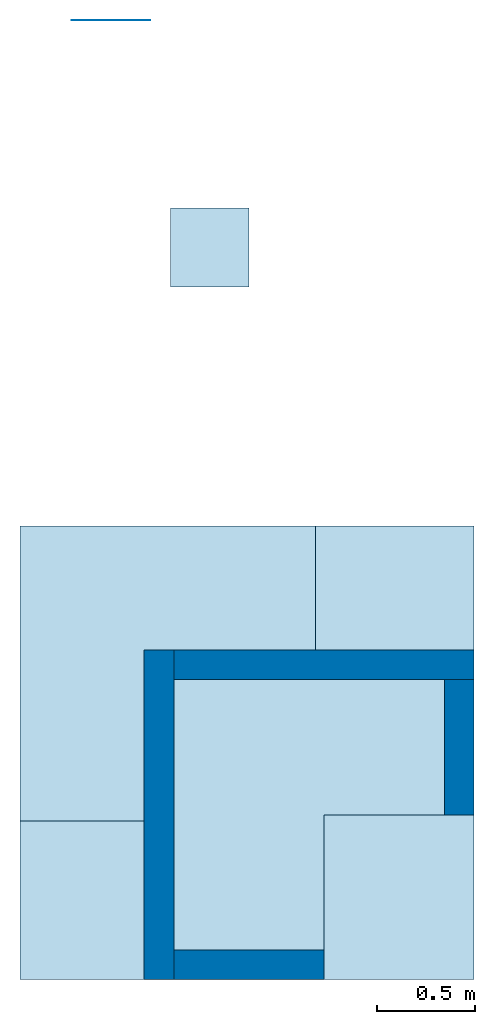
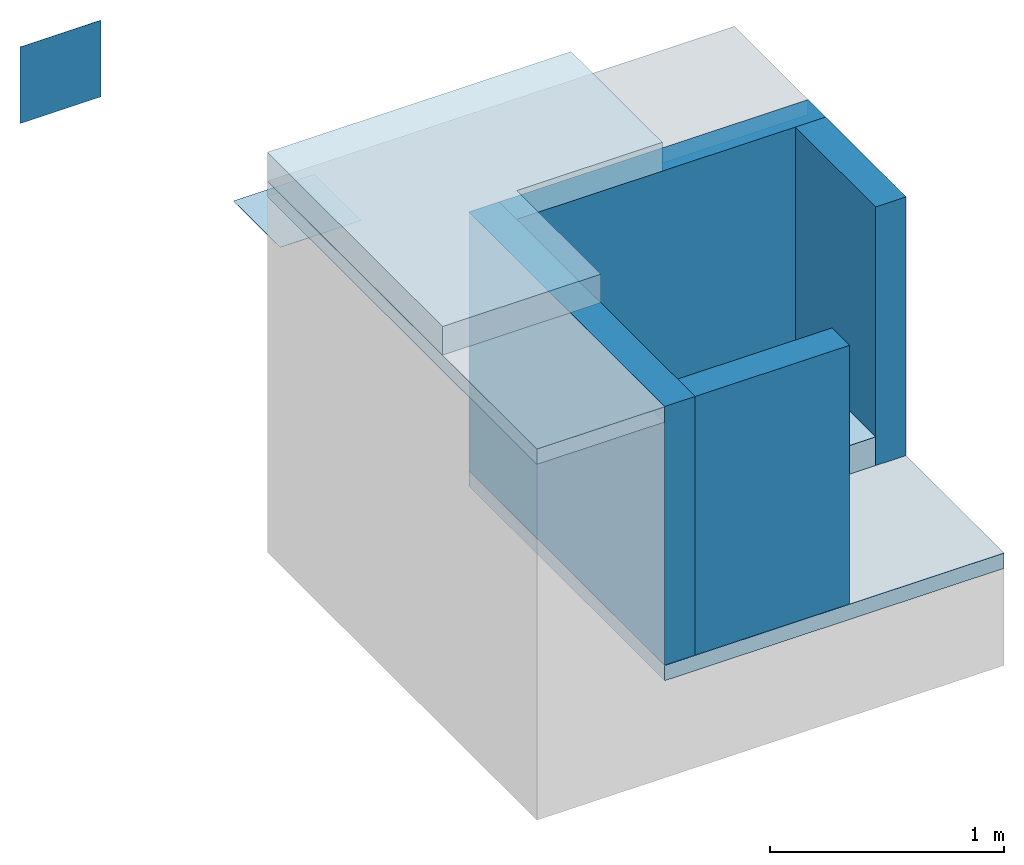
# One storey, part 1 of 2: 5 slabs, 5 walls.
"""IFC2X3 building model written with IfcOpenShell, lengths in metres."""

from ifc_helpers import new_model, entity, si_unit, converted_unit, derived_unit, direction, frame, frame_2d, origin, origin_2d_with_axis, place, context, subcontext, project, spatial, polyline, rectangle, outline, extrude, material, layer, layer_set, layer_usage, type_object, element, save


model = new_model("IFC2X3")

# Units and contexts
model_context = context("Model", 3, precision=1e-05, world=origin(), true_north=direction((6.123031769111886e-17, 1.0)))
body_context = subcontext(model_context, "Body", "Model", "MODEL_VIEW")
ifc_project = project(units=[si_unit("LENGTHUNIT", "METRE"), si_unit("AREAUNIT", "SQUARE_METRE"), si_unit("VOLUMEUNIT", "CUBIC_METRE"), converted_unit("PLANEANGLEUNIT", "DEGREE", entity("IfcRatioMeasure", 0.017453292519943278), si_unit("PLANEANGLEUNIT", "RADIAN"), dimensions=[0, 0, 0, 0, 0, 0, 0]), si_unit("MASSUNIT", "GRAM", prefix="KILO"), derived_unit("MASSDENSITYUNIT", [(si_unit("MASSUNIT", "GRAM", prefix="KILO"), 1), (si_unit("LENGTHUNIT", "METRE"), -3)]), derived_unit("IONCONCENTRATIONUNIT", [(si_unit("MASSUNIT", "GRAM", prefix="KILO"), 1), (si_unit("LENGTHUNIT", "METRE"), -3)]), derived_unit("MOMENTOFINERTIAUNIT", [(si_unit("LENGTHUNIT", "METRE"), 4)]), si_unit("TIMEUNIT", "SECOND"), si_unit("FREQUENCYUNIT", "HERTZ"), si_unit("THERMODYNAMICTEMPERATUREUNIT", "DEGREE_CELSIUS"), derived_unit("THERMALTRANSMITTANCEUNIT", [(si_unit("MASSUNIT", "GRAM", prefix="KILO"), 1), (si_unit("THERMODYNAMICTEMPERATUREUNIT", "KELVIN"), -1), (si_unit("TIMEUNIT", "SECOND"), -3)]), derived_unit("THERMALCONDUCTANCEUNIT", [(si_unit("MASSUNIT", "GRAM", prefix="KILO"), 1), (si_unit("THERMODYNAMICTEMPERATUREUNIT", "KELVIN"), -1), (si_unit("TIMEUNIT", "SECOND"), -3), (si_unit("LENGTHUNIT", "METRE"), 1)]), derived_unit("VOLUMETRICFLOWRATEUNIT", [(si_unit("LENGTHUNIT", "METRE"), 3), (si_unit("TIMEUNIT", "SECOND"), -1)]), derived_unit("MASSFLOWRATEUNIT", [(si_unit("MASSUNIT", "GRAM", prefix="KILO"), 1), (si_unit("TIMEUNIT", "SECOND"), -1)]), derived_unit("ROTATIONALFREQUENCYUNIT", [(si_unit("TIMEUNIT", "SECOND"), -1)]), si_unit("ELECTRICCURRENTUNIT", "AMPERE"), si_unit("ELECTRICVOLTAGEUNIT", "VOLT"), si_unit("POWERUNIT", "WATT"), si_unit("FORCEUNIT", "NEWTON", prefix="KILO"), si_unit("ILLUMINANCEUNIT", "LUX"), si_unit("LUMINOUSFLUXUNIT", "LUMEN"), si_unit("LUMINOUSINTENSITYUNIT", "CANDELA"), derived_unit("USERDEFINED", [(si_unit("MASSUNIT", "GRAM", prefix="KILO"), -1), (si_unit("LENGTHUNIT", "METRE"), -2), (si_unit("TIMEUNIT", "SECOND"), 3), (si_unit("LUMINOUSFLUXUNIT", "LUMEN"), 1)]), derived_unit("USERDEFINED", [(si_unit("MASSUNIT", "GRAM", prefix="KILO"), 1), (si_unit("TIMEUNIT", "SECOND"), -3), (si_unit("LENGTHUNIT", "METRE"), 3), (si_unit("ELECTRICCURRENTUNIT", "AMPERE"), -2)]), derived_unit("SOUNDPOWERUNIT", [(si_unit("MASSUNIT", "GRAM", prefix="KILO"), 1), (si_unit("TIMEUNIT", "SECOND"), -3), (si_unit("LENGTHUNIT", "METRE"), 2)]), derived_unit("SOUNDPRESSUREUNIT", [(si_unit("MASSUNIT", "GRAM", prefix="KILO"), 1), (si_unit("LENGTHUNIT", "METRE"), -1), (si_unit("TIMEUNIT", "SECOND"), -2)]), derived_unit("LINEARVELOCITYUNIT", [(si_unit("LENGTHUNIT", "METRE"), 1), (si_unit("TIMEUNIT", "SECOND"), -1)]), si_unit("PRESSUREUNIT", "PASCAL"), derived_unit("USERDEFINED", [(si_unit("MASSUNIT", "GRAM", prefix="KILO"), 1), (si_unit("LENGTHUNIT", "METRE"), -2), (si_unit("TIMEUNIT", "SECOND"), -2)]), derived_unit("LINEARFORCEUNIT", [(si_unit("MASSUNIT", "GRAM", prefix="KILO"), 1), (si_unit("TIMEUNIT", "SECOND"), -2)]), derived_unit("PLANARFORCEUNIT", [(si_unit("MASSUNIT", "GRAM", prefix="KILO"), 1), (si_unit("LENGTHUNIT", "METRE"), -1), (si_unit("TIMEUNIT", "SECOND"), -2)]), derived_unit("SPECIFICHEATCAPACITYUNIT", [(si_unit("THERMODYNAMICTEMPERATUREUNIT", "KELVIN"), -1), (si_unit("LENGTHUNIT", "METRE"), 2), (si_unit("TIMEUNIT", "SECOND"), -2)]), derived_unit("HEATINGVALUEUNIT", [(si_unit("LENGTHUNIT", "METRE"), 2), (si_unit("TIMEUNIT", "SECOND"), -2)]), derived_unit("VAPORPERMEABILITYUNIT", [(si_unit("LENGTHUNIT", "METRE"), -1), (si_unit("TIMEUNIT", "SECOND"), 1)]), derived_unit("DYNAMICVISCOSITYUNIT", [(si_unit("MASSUNIT", "GRAM", prefix="KILO"), 1), (si_unit("TIMEUNIT", "SECOND"), -1), (si_unit("LENGTHUNIT", "METRE"), -1)]), derived_unit("THERMALEXPANSIONCOEFFICIENTUNIT", [(si_unit("THERMODYNAMICTEMPERATUREUNIT", "KELVIN"), -1)]), derived_unit("MODULUSOFELASTICITYUNIT", [(si_unit("MASSUNIT", "GRAM", prefix="KILO"), 1), (si_unit("LENGTHUNIT", "METRE"), -1), (si_unit("TIMEUNIT", "SECOND"), -2)]), derived_unit("ISOTHERMALMOISTURECAPACITYUNIT", [(si_unit("LENGTHUNIT", "METRE"), 3), (si_unit("MASSUNIT", "GRAM", prefix="KILO"), -1)]), derived_unit("MOISTUREDIFFUSIVITYUNIT", [(si_unit("TIMEUNIT", "SECOND"), -1), (si_unit("LENGTHUNIT", "METRE"), 2)])], contexts=[model_context])

# Site, building, storey
site_placement = place(None, origin())
site = spatial("IfcSite", under=ifc_project, at=site_placement, Name="Default", CompositionType="ELEMENT")
building_placement = place(site_placement, origin())
building = spatial("IfcBuilding", under=site, at=building_placement, CompositionType="ELEMENT")
storey_placement = place(building_placement, frame((0.0, 0.0, -0.0025237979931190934)))
storey = spatial("IfcBuildingStorey", under=building, at=storey_placement, Name="ARQ Térreo", CompositionType="ELEMENT", Elevation=-0.0025237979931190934)

# Slabs
ifc_material_1 = material(Name="#concreto")
ifc_layer_1 = layer(ifc_material_1, 0.14999999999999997)
ifc_layer_set_1 = layer_set([ifc_layer_1], Name="Piso:Genérico 150 mm")
ifc_layer_usage_1 = layer_usage(ifc_layer_set_1, "AXIS3", "POSITIVE", 0.0)
slab_type_1 = type_object("IfcSlabType", Name="Piso:Genérico 150 mm", PredefinedType="FLOOR", material=ifc_layer_set_1)
slab_1_placement = place(storey_placement, origin())
element("IfcSlab", 1, at=slab_1_placement, inside=storey, type_object=slab_type_1, material=ifc_layer_usage_1, Name="Piso:Genérico 150 mm", ObjectType="Piso:Genérico 150 mm", PredefinedType="FLOOR", context=body_context, shape_type="SweptSolid", body=[
    extrude(outline(polyline([(-0.8374999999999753, -0.7624999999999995), (0.8374999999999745, -0.7624999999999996), (0.8374999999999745, 0.7624999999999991), (0.0, 0.7624999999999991), (0.0, 0.0), (-0.8374999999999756, 0.0), (-0.8374999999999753, -0.7624999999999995)])), frame((0.41052958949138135, -0.6916299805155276, 0.14999999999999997), z_axis=(0.0, 0.0, -1.0), x_axis=(0.0, 1.0, 0.0)), (0.0, 0.0, 1.0), 0.14999999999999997),
])
slab_2_placement = place(storey_placement, origin())
element("IfcSlab", 2, at=slab_2_placement, inside=storey, type_object=slab_type_1, material=ifc_layer_usage_1, Name="Piso:Genérico 150 mm", ObjectType="Piso:Genérico 150 mm", PredefinedType="FLOOR", context=body_context, shape_type="SweptSolid", body=[
    extrude(outline(polyline([(-0.7396327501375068, -0.7603672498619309), (0.760367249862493, -0.7603672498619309), (0.7603672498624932, 0.7396327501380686), (-0.02073449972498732, 0.7396327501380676), (-0.020734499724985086, 0.020734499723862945), (-0.739632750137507, 0.020734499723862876), (-0.7396327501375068, -0.7603672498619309)])), frame((-0.37270491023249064, 0.016604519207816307, 1.5000000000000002), z_axis=(0.0, 0.0, -1.0), x_axis=(0.0, 1.0, 0.0)), (0.0, 0.0, 1.0), 0.15000000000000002),
])
ifc_material_2 = material(Name="#AMPHIBIA")
ifc_layer_2 = layer(ifc_material_2, 0.0012999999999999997)
ifc_layer_set_2 = layer_set([ifc_layer_2], Name="Piso:IMPH_AMPHIBIA")
ifc_layer_usage_2 = layer_usage(ifc_layer_set_2, "AXIS3", "POSITIVE", 0.0)
slab_type_2 = type_object("IfcSlabType", Name="Piso:IMPH_AMPHIBIA", PredefinedType="FLOOR", material=ifc_layer_set_2)
slab_3_placement = place(storey_placement, origin())
element("IfcSlab", 3, at=slab_3_placement, inside=storey, type_object=slab_type_2, material=ifc_layer_usage_2, Name="Piso:IMPH_AMPHIBIA", ObjectType="Piso:IMPH_AMPHIBIA", PredefinedType="FLOOR", context=body_context, shape_type="SweptSolid", body=[
    extrude(rectangle(XDim=0.4, YDim=0.4, at=origin_2d_with_axis()), frame((-0.16887219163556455, 2.19049679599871, 0.0), z_axis=(0.0, 0.0, -1.0), x_axis=(0.0, 1.0, 0.0)), (0.0, 0.0, 1.0), 0.0012999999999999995),
])
ifc_material_3 = material(Name="#Argamassa")
ifc_layer_3 = layer(ifc_material_3, 0.08)
ifc_layer_set_3 = layer_set([ifc_layer_3], Name="Piso:Lastro")
ifc_layer_usage_3 = layer_usage(ifc_layer_set_3, "AXIS3", "POSITIVE", 0.0)
slab_type_3 = type_object("IfcSlabType", Name="Piso:Lastro", PredefinedType="FLOOR", material=ifc_layer_set_3)
slab_4_placement = place(storey_placement, origin())
element("IfcSlab", 4, at=slab_4_placement, inside=storey, type_object=slab_type_3, material=ifc_layer_usage_3, Name="Piso:Lastro", ObjectType="Piso:Lastro", PredefinedType="FLOOR", context=body_context, shape_type="SweptSolid", body=[
    extrude(rectangle(XDim=1.675000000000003, YDim=1.6749999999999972, at=frame_2d((0.0, 5.551115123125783e-17), x_axis=(1.0, 0.0))), frame((0.33552958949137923, -0.6916299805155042, -0.0012999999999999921), z_axis=(0.0, 0.0, -1.0), x_axis=(0.0, 1.0, 0.0)), (0.0, 0.0, 1.0), 0.08),
])
slab_5_placement = place(storey_placement, origin())
element("IfcSlab", 5, at=slab_5_placement, inside=storey, type_object=slab_type_3, material=ifc_layer_usage_3, Name="Piso:Lastro", ObjectType="Piso:Lastro", PredefinedType="FLOOR", context=body_context, shape_type="SweptSolid", body=[
    extrude(outline(polyline([(-1.3274672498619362, -0.9790678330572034), (0.9786344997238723, -0.9790678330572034), (0.9786344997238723, 1.327033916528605), (0.348832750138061, 1.3270339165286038), (0.3488327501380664, -0.34796608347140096), (-1.3274672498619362, -0.34796608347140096), (-1.3274672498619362, -0.9790678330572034)])), frame((-0.15400432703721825, -0.20166273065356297, 1.3486999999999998), z_axis=(0.0, 0.0, -1.0), x_axis=(0.0, 1.0, 0.0)), (0.0, 0.0, 1.0), 0.07999999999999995),
])

# Walls
ifc_layer_4 = layer(ifc_material_1, 0.14999999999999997)
ifc_layer_set_4 = layer_set([ifc_layer_4], Name="Parede básica:Parede básica:Parede Concreto")
ifc_layer_usage_4 = layer_usage(ifc_layer_set_4, "AXIS2", "NEGATIVE", 0.07499999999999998)
wall_type_1 = type_object("IfcWallType", Name="Parede básica:Parede básica:Parede Concreto", PredefinedType="STANDARD", material=ifc_layer_set_4)
wall_1_placement = place(storey_placement, frame((-0.4269704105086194, 0.1458700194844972, 0.0), z_axis=(0.0, 0.0, 1.0), x_axis=(0.0, -1.0, 0.0)))
element("IfcWallStandardCase", 6, at=wall_1_placement, inside=storey, type_object=wall_type_1, material=ifc_layer_usage_4, Name="Parede básica:Parede Concreto", ObjectType="Parede básica:Parede Concreto", context=body_context, shape_type="SweptSolid", body=[
    extrude(rectangle(XDim=1.674999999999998, YDim=0.15000000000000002, at=frame_2d((0.837499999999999, 0.0), x_axis=(-1.0, 0.0))), origin(), (0.0, 0.0, 1.0), 1.35),
])
wall_2_placement = place(storey_placement, frame((-0.3519704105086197, 0.07087001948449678, 0.0)))
element("IfcWallStandardCase", 7, at=wall_2_placement, inside=storey, type_object=wall_type_1, material=ifc_layer_usage_4, Name="Parede básica:Parede básica:Parede Concreto", ObjectType="Parede básica:Parede básica:Parede Concreto", context=body_context, shape_type="SweptSolid", body=[
    extrude(rectangle(XDim=1.5250000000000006, YDim=0.14999999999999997, at=frame_2d((0.7625000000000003, -6.938893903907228e-18), x_axis=(-1.0, 0.0))), origin(), (0.0, 0.0, 1.0), 1.35),
])
wall_3_placement = place(storey_placement, frame((1.0980295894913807, -0.00412998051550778, 0.0), z_axis=(0.0, 0.0, 1.0), x_axis=(0.0, -1.0, 0.0)))
element("IfcWallStandardCase", 8, at=wall_3_placement, inside=storey, type_object=wall_type_1, material=ifc_layer_usage_4, Name="Parede básica:Parede básica:Parede Concreto", ObjectType="Parede básica:Parede básica:Parede Concreto", context=body_context, shape_type="SweptSolid", body=[
    extrude(rectangle(XDim=0.6875000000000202, YDim=0.15000000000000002, at=frame_2d((0.3437500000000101, 6.938893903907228e-18), x_axis=(-1.0, 0.0))), origin(), (0.0, 0.0, 1.0), 1.35),
])
wall_4_placement = place(storey_placement, frame((0.41052958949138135, -1.4541299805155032, 0.0), z_axis=(0.0, 0.0, 1.0), x_axis=(-1.0, 0.0, 0.0)))
element("IfcWallStandardCase", 9, at=wall_4_placement, inside=storey, type_object=wall_type_1, material=ifc_layer_usage_4, Name="Parede básica:Parede básica:Parede Concreto", ObjectType="Parede básica:Parede básica:Parede Concreto", context=body_context, shape_type="SweptSolid", body=[
    extrude(rectangle(XDim=0.762500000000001, YDim=0.15000000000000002, at=frame_2d((0.3812500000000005, 0.0), x_axis=(-1.0, 0.0))), origin(), (0.0, 0.0, 1.0), 1.35),
])
ifc_layer_5 = layer(ifc_material_2, 0.0012999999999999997)
ifc_layer_set_5 = layer_set([ifc_layer_5], Name="Parede básica:IMPV_AMPHIBIA")
ifc_layer_usage_5 = layer_usage(ifc_layer_set_5, "AXIS2", "NEGATIVE", 0.0006499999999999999)
wall_type_2 = type_object("IfcWallType", Name="Parede básica:IMPV_AMPHIBIA", PredefinedType="STANDARD", material=ifc_layer_set_5)
wall_5_placement = place(storey_placement, frame((-0.4703325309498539, 3.345870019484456, 0.0), z_axis=(0.0, 0.0, 1.0), x_axis=(-1.0, 0.0, 0.0)))
element("IfcWallStandardCase", 10, at=wall_5_placement, inside=storey, type_object=wall_type_2, material=ifc_layer_usage_5, Name="Parede básica:IMPV_VP7000", ObjectType="Parede básica:IMPV_VP7000", context=body_context, shape_type="SweptSolid", body=[
    extrude(rectangle(XDim=0.4000000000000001, YDim=0.0012999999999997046, at=frame_2d((0.20000000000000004, 5.936006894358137e-17), x_axis=(-1.0, 0.0))), origin(), (0.0, 0.0, 1.0), 0.4),
])

save(model, "model.ifc")
